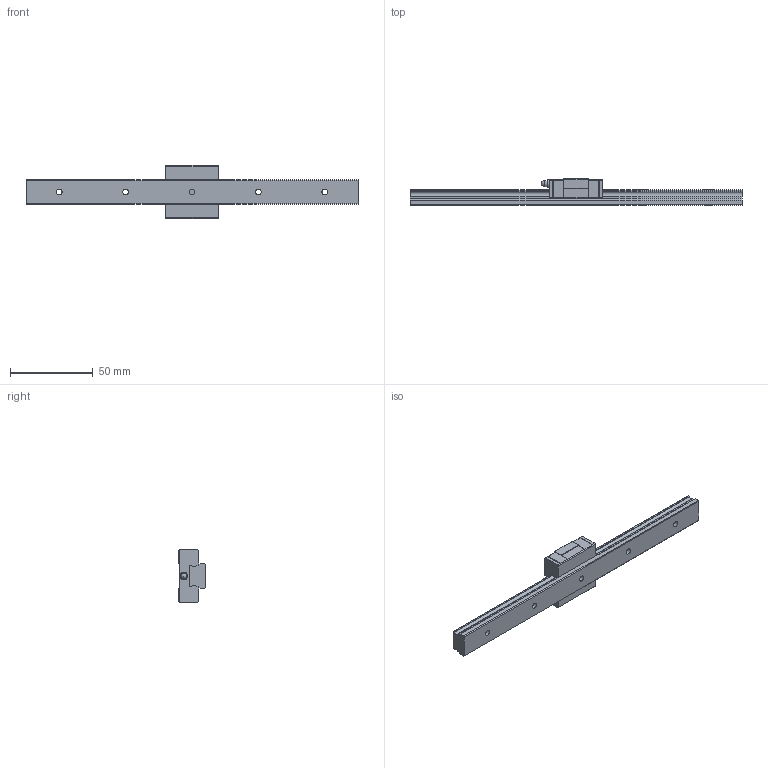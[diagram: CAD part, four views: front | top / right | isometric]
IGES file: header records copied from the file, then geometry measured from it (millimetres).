
Start section: Data from Parasolid IGES Translator 26.0.171, Copyright(c) 2006 Siemens PLM Software. All Rights Reserved.
Global section: file name: RSX15SMUU-200LM_G20_0_PB107_84-05_0_0_0_1.igs; native system: By Siemens PLM Incorporated; preprocessor: XPlus GENERIC/IGES 26.0.171; author: Noname; organization: Noname; date: 20240521.102543; units: millimetre
Bounding box: 200 x 16 x 32 mm (x, y, z)
Surface area: 14512.7 mm2 (no closed solid volume)
Topology: 0 solids, 0 shells, 138 faces, 733 edges, 701 vertices
Faces by surface type: extrusion 96, revolution 42
